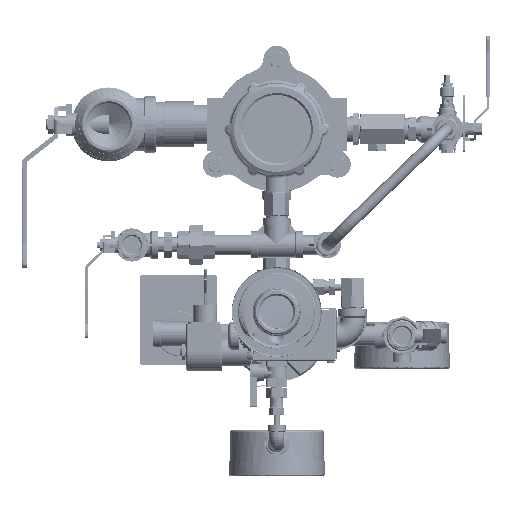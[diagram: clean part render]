
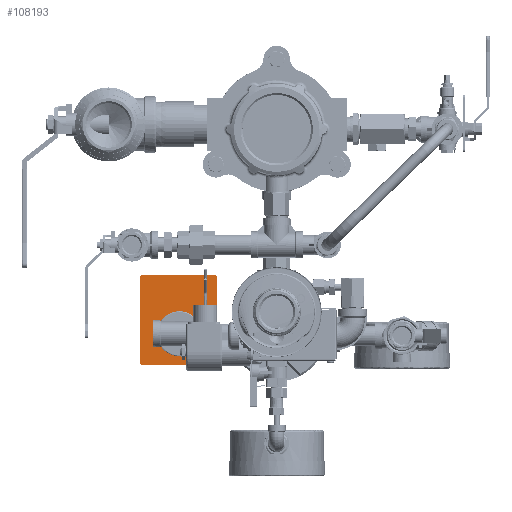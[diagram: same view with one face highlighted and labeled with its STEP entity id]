
A CAD part, left-side view. The second image highlights one B-rep face of the part: STEP entity #108193.
In plain terms, the highlighted planar face has unit normal (-1, 0, 0).
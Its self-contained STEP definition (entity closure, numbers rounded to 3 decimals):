
#5885=FACE_BOUND('',#20222,.T.);
#8092=PLANE('',#117576);
#13532=FACE_OUTER_BOUND('',#20221,.T.);
#20221=EDGE_LOOP('',(#86738,#86739,#86740,#86741,#86742,#86743,#86744,#86745));
#20222=EDGE_LOOP('',(#86746));
#27002=LINE('',#216102,#34307);
#27005=LINE('',#216108,#34310);
#27009=LINE('',#216120,#34314);
#27010=LINE('',#216126,#34315);
#34307=VECTOR('',#139464,10.);
#34310=VECTOR('',#139469,10.);
#34314=VECTOR('',#139483,10.);
#34315=VECTOR('',#139492,10.);
#40413=CIRCLE('',#117570,2.);
#40414=CIRCLE('',#117572,2.);
#40415=CIRCLE('',#117575,2.);
#40416=CIRCLE('',#117577,2.);
#40417=CIRCLE('',#117578,23.75);
#48012=VERTEX_POINT('',#216098);
#48013=VERTEX_POINT('',#216100);
#48014=VERTEX_POINT('',#216104);
#48015=VERTEX_POINT('',#216106);
#48016=VERTEX_POINT('',#216110);
#48017=VERTEX_POINT('',#216114);
#48018=VERTEX_POINT('',#216118);
#48019=VERTEX_POINT('',#216124);
#48020=VERTEX_POINT('',#216127);
#61397=EDGE_CURVE('',#48012,#48013,#27002,.T.);
#61400=EDGE_CURVE('',#48014,#48015,#27005,.T.);
#61402=EDGE_CURVE('',#48016,#48015,#40413,.T.);
#61403=EDGE_CURVE('',#48014,#48017,#40414,.T.);
#61406=EDGE_CURVE('',#48018,#48017,#27009,.T.);
#61407=EDGE_CURVE('',#48018,#48013,#40415,.T.);
#61408=EDGE_CURVE('',#48012,#48019,#40416,.T.);
#61409=EDGE_CURVE('',#48016,#48019,#27010,.T.);
#61410=EDGE_CURVE('',#48020,#48020,#40417,.T.);
#86738=ORIENTED_EDGE('',*,*,#61408,.F.);
#86739=ORIENTED_EDGE('',*,*,#61397,.T.);
#86740=ORIENTED_EDGE('',*,*,#61407,.F.);
#86741=ORIENTED_EDGE('',*,*,#61406,.T.);
#86742=ORIENTED_EDGE('',*,*,#61403,.F.);
#86743=ORIENTED_EDGE('',*,*,#61400,.T.);
#86744=ORIENTED_EDGE('',*,*,#61402,.F.);
#86745=ORIENTED_EDGE('',*,*,#61409,.T.);
#86746=ORIENTED_EDGE('',*,*,#61410,.T.);
#108193=ADVANCED_FACE('',(#13532,#5885),#8092,.F.);
#117570=AXIS2_PLACEMENT_3D('',#216112,#139473,#139474);
#117572=AXIS2_PLACEMENT_3D('',#216115,#139477,#139478);
#117575=AXIS2_PLACEMENT_3D('',#216122,#139486,#139487);
#117576=AXIS2_PLACEMENT_3D('',#216123,#139488,#139489);
#117577=AXIS2_PLACEMENT_3D('',#216125,#139490,#139491);
#117578=AXIS2_PLACEMENT_3D('',#216128,#139493,#139494);
#139464=DIRECTION('',(0.,-1.,0.));
#139469=DIRECTION('',(0.,1.,0.));
#139473=DIRECTION('center_axis',(1.,0.,0.));
#139474=DIRECTION('ref_axis',(0.,0.707,0.707));
#139477=DIRECTION('center_axis',(1.,0.,0.));
#139478=DIRECTION('ref_axis',(0.,-0.707,0.707));
#139483=DIRECTION('',(0.,0.,1.));
#139486=DIRECTION('center_axis',(1.,0.,0.));
#139487=DIRECTION('ref_axis',(0.,-0.707,-0.707));
#139488=DIRECTION('center_axis',(1.,0.,0.));
#139489=DIRECTION('ref_axis',(0.,0.,
1.));
#139490=DIRECTION('center_axis',(1.,0.,0.));
#139491=DIRECTION('ref_axis',(0.,0.707,-0.707));
#139492=DIRECTION('',(0.,0.,-1.));
#139493=DIRECTION('center_axis',(1.,0.,0.));
#139494=DIRECTION('ref_axis',(0.,0.,
1.));
#216098=CARTESIAN_POINT('',(611.253,625.762,329.693));
#216100=CARTESIAN_POINT('',(611.253,548.762,329.693));
#216102=CARTESIAN_POINT('',(611.253,627.762,329.693));
#216104=CARTESIAN_POINT('',(611.253,548.762,424.693));
#216106=CARTESIAN_POINT('',(611.253,625.762,424.693));
#216108=CARTESIAN_POINT('',(611.253,546.762,424.693));
#216110=CARTESIAN_POINT('',(611.253,627.762,422.693));
#216112=CARTESIAN_POINT('Origin',(611.253,625.762,422.693));
#216114=CARTESIAN_POINT('',(611.253,546.762,422.693));
#216115=CARTESIAN_POINT('Origin',(611.253,548.762,422.693));
#216118=CARTESIAN_POINT('',(611.253,546.762,331.693));
#216120=CARTESIAN_POINT('',(611.253,546.762,329.693));
#216122=CARTESIAN_POINT('Origin',(611.253,548.762,331.693));
#216123=CARTESIAN_POINT('Origin',(611.253,587.262,377.193));
#216124=CARTESIAN_POINT('',(611.253,627.762,331.693));
#216125=CARTESIAN_POINT('Origin',(611.253,625.762,331.693));
#216126=CARTESIAN_POINT('',(611.253,627.762,424.693));
#216127=CARTESIAN_POINT('',(611.253,586.262,338.943));
#216128=CARTESIAN_POINT('Origin',(611.253,586.262,362.693));
